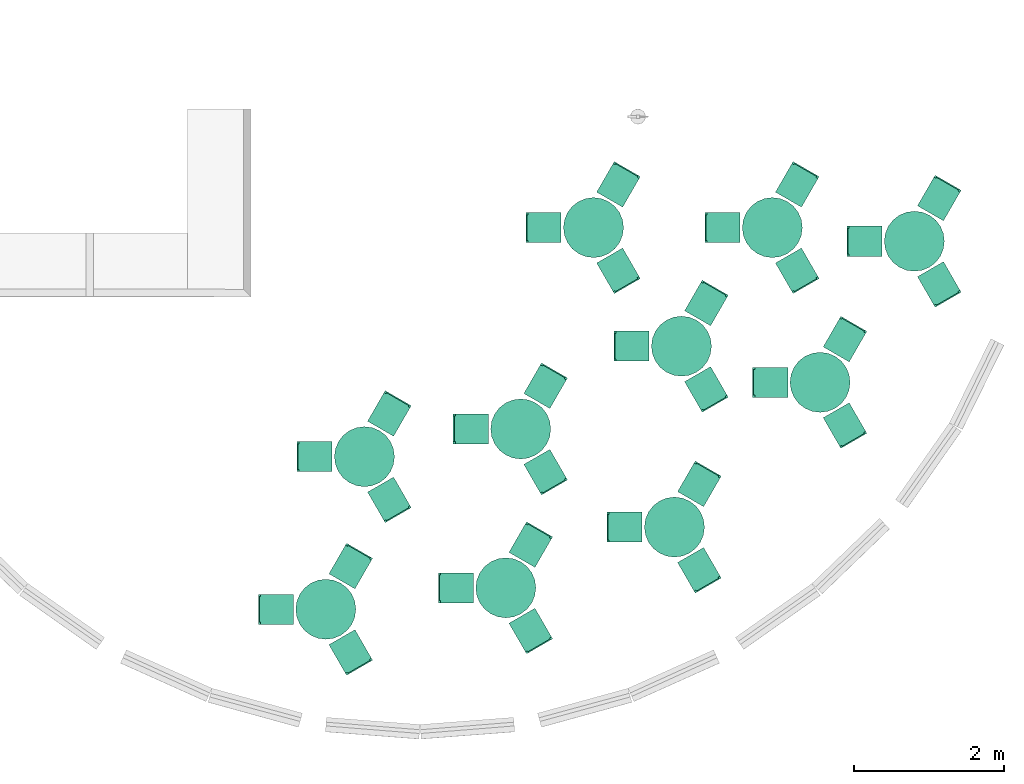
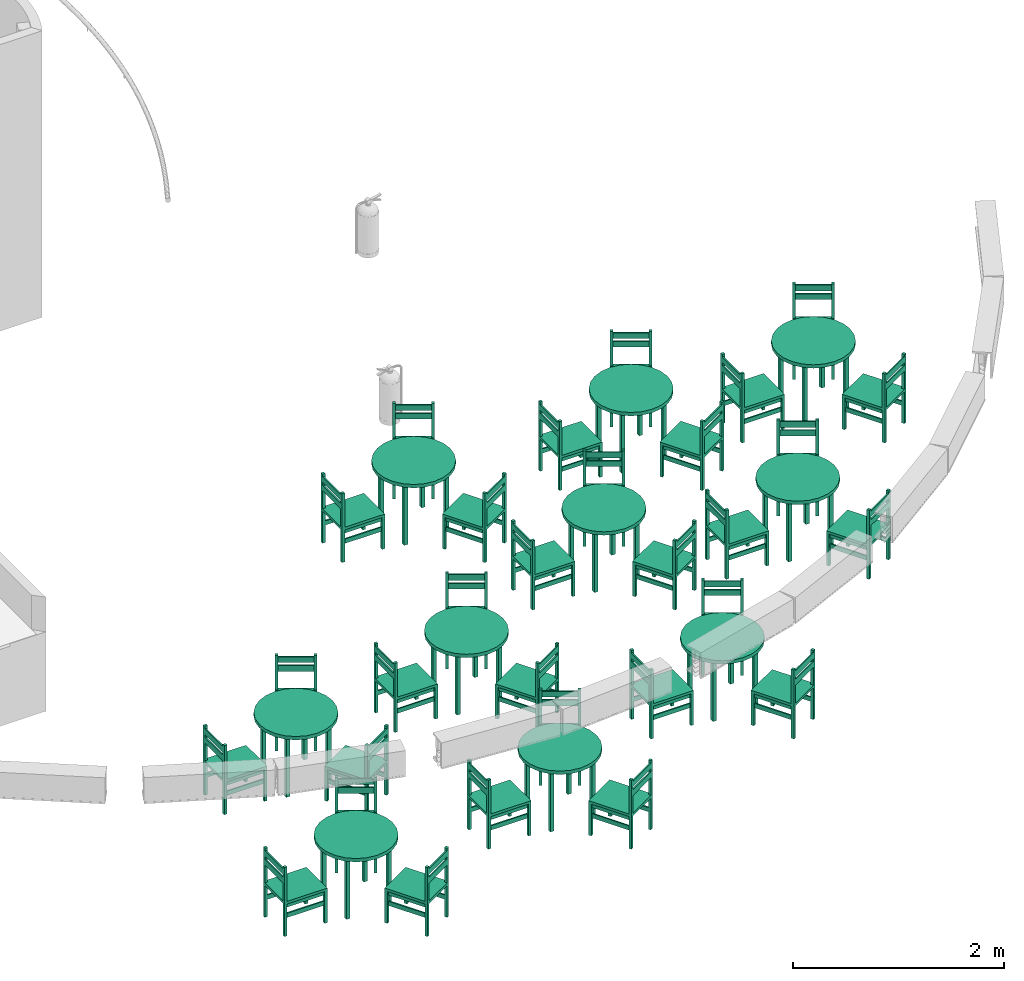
# One storey, part 5 of 6: 10 sanitary terminals.
"""IFC4 building model written with IfcOpenShell, lengths in millimetres."""

from ifc_helpers import new_model, entity, si_unit, converted_unit, derived_unit, direction, frame, origin_with_axes, place, context, subcontext, project, spatial, polygons, source, transform, mapped, type_object, element, save


model = new_model("IFC4")

# Units and contexts
model_context = context("Model", 3, precision=0.01, world=origin_with_axes(), true_north=direction((0.0, 1.0)))
body_context = subcontext(model_context, "Body", "Model", "MODEL_VIEW")
ifc_project = project(units=[si_unit("LENGTHUNIT", "METRE", prefix="MILLI"), si_unit("AREAUNIT", "SQUARE_METRE"), si_unit("VOLUMEUNIT", "CUBIC_METRE"), converted_unit("PLANEANGLEUNIT", "DEGREE", entity("IfcPlaneAngleMeasure", 0.0174532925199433), si_unit("PLANEANGLEUNIT", "RADIAN"), dimensions=[0, 0, 0, 0, 0, 0, 0]), converted_unit("TIMEUNIT", "Year", entity("IfcTimeMeasure", 31557600.0), si_unit("TIMEUNIT", "SECOND"), dimensions=[0, 0, 1, 0, 0, 0, 0]), si_unit("MASSUNIT", "GRAM", prefix="KILO"), si_unit("THERMODYNAMICTEMPERATUREUNIT", "DEGREE_CELSIUS"), si_unit("LUMINOUSINTENSITYUNIT", "LUMEN"), si_unit("ENERGYUNIT", "JOULE", prefix="MEGA"), derived_unit("THERMALCONDUCTANCEUNIT", [(si_unit("POWERUNIT", "WATT"), 1), (si_unit("LENGTHUNIT", "METRE"), -1), (si_unit("THERMODYNAMICTEMPERATUREUNIT", "KELVIN"), -1)]), derived_unit("SPECIFICHEATCAPACITYUNIT", [(si_unit("ENERGYUNIT", "JOULE"), 1), (si_unit("MASSUNIT", "GRAM", prefix="KILO"), -1), (si_unit("THERMODYNAMICTEMPERATUREUNIT", "KELVIN"), -1)]), derived_unit("MASSDENSITYUNIT", [(si_unit("MASSUNIT", "GRAM", prefix="KILO"), 1), (si_unit("VOLUMEUNIT", "CUBIC_METRE"), -1)])], contexts=[model_context])

# Site, building, storey
site_placement = place(None, origin_with_axes())
site = spatial("IfcSite", under=ifc_project, at=site_placement, Name="Exteriér", CompositionType="ELEMENT")
building_placement = place(site_placement, origin_with_axes())
building = spatial("IfcBuilding", under=site, at=building_placement, Name="Univerzitní lezecké centrum", CompositionType="ELEMENT")
storey_placement = place(building_placement, origin_with_axes())
storey = spatial("IfcBuildingStorey", under=building, at=storey_placement, Name="1.NP", CompositionType="ELEMENT", Elevation=0.0)

# Sanitary terminals
sanitary_terminal_type = type_object("IfcSanitaryTerminalType", Name="Dining Table Round 17", PredefinedType="NOTDEFINED")
shared_shape = source(origin_with_axes(), body_context, "Body", "Tessellation", [
    polygons([(386.3703305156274, -103.5276180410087, 710.0), (346.4101615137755, -200.0000000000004, 710.0), (282.842712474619, -282.8427124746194, 710.0), (199.9999999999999, -346.4101615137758, 710.0), (103.5276180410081, -386.3703305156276, 710.0), (0.0, -400.0000000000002, 710.0), (-103.5276180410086, -386.3703305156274, 710.0), (-200.0000000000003, -346.4101615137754, 710.0), (-282.8427124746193, -282.842712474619, 710.0), (-346.4101615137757, -199.9999999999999, 710.0), (-386.3703305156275, -103.5276180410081, 710.0), (-400.0000000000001, 0.0, 710.0), (-386.3703305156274, 103.5276180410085, 710.0), (-346.4101615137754, 200.0000000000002, 710.0), (-282.842712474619, 282.8427124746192, 710.0), (-199.9999999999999, 346.4101615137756, 710.0), (-103.5276180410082, 386.3703305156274, 710.0), (0.0, 400.0, 710.0), (103.5276180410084, 386.3703305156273, 710.0), (200.0000000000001, 346.4101615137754, 710.0), (282.8427124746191, 282.842712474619, 710.0), (346.4101615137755, 200.0, 710.0), (386.3703305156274, 103.5276180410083, 710.0), (400.0, 0.0, 710.0), (386.3703305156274, -103.5276180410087, 750.0), (346.4101615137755, -200.0000000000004, 750.0), (282.842712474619, -282.8427124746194, 750.0), (199.9999999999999, -346.4101615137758, 750.0), (103.5276180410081, -386.3703305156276, 750.0), (0.0, -400.0000000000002, 750.0), (-103.5276180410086, -386.3703305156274, 750.0), (-200.0000000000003, -346.4101615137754, 750.0), (-282.8427124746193, -282.842712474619, 750.0), (-346.4101615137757, -199.9999999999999, 750.0), (-386.3703305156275, -103.5276180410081, 750.0), (-400.0000000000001, 0.0, 750.0), (-386.3703305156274, 103.5276180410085, 750.0), (-346.4101615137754, 200.0000000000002, 750.0), (-282.842712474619, 282.8427124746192, 750.0), (-199.9999999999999, 346.4101615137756, 750.0), (-103.5276180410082, 386.3703305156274, 750.0), (0.0, 400.0, 750.0), (103.5276180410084, 386.3703305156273, 750.0), (200.0000000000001, 346.4101615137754, 750.0), (282.8427124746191, 282.842712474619, 750.0), (346.4101615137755, 200.0, 750.0), (386.3703305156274, 103.5276180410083, 750.0), (400.0, 0.0, 750.0)], [[[1, 2, 3, 4, 5, 6, 7, 8, 9, 10, 11, 12, 13, 14, 15, 16, 17, 18, 19, 20, 21, 22, 23, 24]], [[2, 1, 25, 26]], [[3, 2, 26, 27]], [[4, 3, 27, 28]], [[5, 4, 28, 29]], [[6, 5, 29, 30]], [[7, 6, 30, 31]], [[8, 7, 31, 32]], [[9, 8, 32, 33]], [[10, 9, 33, 34]], [[11, 10, 34, 35]], [[12, 11, 35, 36]], [[13, 12, 36, 37]], [[14, 13, 37, 38]], [[15, 14, 38, 39]], [[16, 15, 39, 40]], [[17, 16, 40, 41]], [[18, 17, 41, 42]], [[19, 18, 42, 43]], [[20, 19, 43, 44]], [[21, 20, 44, 45]], [[22, 21, 45, 46]], [[23, 22, 46, 47]], [[24, 23, 47, 48]], [[1, 24, 48, 25]], [[25, 48, 47, 46, 45, 44, 43, 42, 41, 40, 39, 38, 37, 36, 35, 34, 33, 32, 31, 30, 29, 28, 27, 26]]], closed=True),
    polygons([(-206.6666666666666, -246.6666666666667, 0.0), (-246.6666666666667, -246.6666666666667, 0.0), (-246.6666666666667, -206.6666666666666, 0.0), (-206.6666666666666, -206.6666666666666, 0.0), (-206.6666666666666, -246.6666666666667, 710.0), (-246.6666666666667, -246.6666666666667, 710.0), (-246.6666666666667, -206.6666666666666, 710.0), (-206.6666666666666, -206.6666666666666, 710.0)], [[[1, 2, 3, 4]], [[2, 1, 5, 6]], [[3, 2, 6, 7]], [[4, 3, 7, 8]], [[1, 4, 8, 5]], [[6, 5, 8, 7]]], closed=True),
    polygons([(246.6666666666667, -246.6666666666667, 0.0), (206.6666666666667, -246.6666666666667, 0.0), (206.6666666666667, -206.6666666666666, 0.0), (246.6666666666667, -206.6666666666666, 0.0), (246.6666666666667, -246.6666666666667, 710.0), (206.6666666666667, -246.6666666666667, 710.0), (206.6666666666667, -206.6666666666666, 710.0), (246.6666666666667, -206.6666666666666, 710.0)], [[[1, 2, 3, 4]], [[2, 1, 5, 6]], [[3, 2, 6, 7]], [[4, 3, 7, 8]], [[1, 4, 8, 5]], [[6, 5, 8, 7]]], closed=True),
    polygons([(246.6666666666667, 206.6666666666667, 0.0), (206.6666666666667, 206.6666666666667, 0.0), (206.6666666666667, 246.6666666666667, 0.0), (246.6666666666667, 246.6666666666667, 0.0), (246.6666666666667, 206.6666666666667, 710.0), (206.6666666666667, 206.6666666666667, 710.0), (206.6666666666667, 246.6666666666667, 710.0), (246.6666666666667, 246.6666666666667, 710.0)], [[[1, 2, 3, 4]], [[2, 1, 5, 6]], [[3, 2, 6, 7]], [[4, 3, 7, 8]], [[1, 4, 8, 5]], [[6, 5, 8, 7]]], closed=True),
    polygons([(-206.6666666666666, 206.6666666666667, 0.0), (-246.6666666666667, 206.6666666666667, 0.0), (-246.6666666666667, 246.6666666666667, 0.0), (-206.6666666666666, 246.6666666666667, 0.0), (-206.6666666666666, 206.6666666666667, 710.0), (-246.6666666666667, 206.6666666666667, 710.0), (-246.6666666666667, 246.6666666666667, 710.0), (-206.6666666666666, 246.6666666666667, 710.0)], [[[1, 2, 3, 4]], [[2, 1, 5, 6]], [[3, 2, 6, 7]], [[4, 3, 7, 8]], [[1, 4, 8, 5]], [[6, 5, 8, 7]]], closed=True),
    polygons([(-900.0, 170.0000000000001, 370.0), (-900.0, 170.0000000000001, 400.0), (-870.0, 170.0, 400.0), (-870.0, 170.0, 370.0), (-900.0, -169.9999999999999, 370.0), (-900.0, -169.9999999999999, 400.0), (-870.0, -170.0, 400.0), (-870.0, -200.0, 400.0), (-430.0000000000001, -200.0, 400.0), (-430.0000000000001, 200.0, 400.0), (-870.0, 200.0, 400.0), (-870.0, 200.0, 370.0), (-430.0000000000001, 200.0, 370.0), (-430.0000000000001, -200.0, 370.0), (-870.0, -200.0, 370.0), (-870.0, -170.0, 370.0)], [[[1, 2, 3, 4]], [[5, 6, 2, 1]], [[2, 6, 7, 8, 9, 10, 11, 3]], [[4, 3, 11, 12]], [[1, 4, 12, 13, 14, 15, 16, 5]], [[16, 7, 6, 5]], [[15, 8, 7, 16]], [[14, 9, 8, 15]], [[13, 10, 9, 14]], [[12, 11, 10, 13]]], closed=True),
    polygons([(-900.0, -169.9999999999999, 0.0), (-870.0, -169.9999999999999, 0.0), (-870.0, -199.9999999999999, 0.0), (-900.0, -199.9999999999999, 0.0), (-900.0, -169.9999999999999, 800.0), (-870.0, -169.9999999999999, 800.0), (-870.0, -199.9999999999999, 800.0), (-900.0, -199.9999999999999, 800.0)], [[[1, 2, 3, 4]], [[1, 5, 6, 2]], [[2, 6, 7, 3]], [[3, 7, 8, 4]], [[4, 8, 5, 1]], [[8, 7, 6, 5]]], closed=True),
    polygons([(-460.0000000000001, -170.0, 0.0), (-430.0000000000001, -170.0, 0.0), (-430.0000000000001, -200.0, 0.0), (-460.0000000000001, -200.0, 0.0), (-460.0000000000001, -170.0, 370.0), (-430.0000000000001, -170.0, 370.0), (-430.0000000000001, -200.0, 370.0), (-460.0000000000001, -200.0, 370.0)], [[[1, 2, 3, 4]], [[1, 5, 6, 2]], [[2, 6, 7, 3]], [[3, 7, 8, 4]], [[4, 8, 5, 1]], [[8, 7, 6, 5]]], closed=True),
    polygons([(-900.0, 170.0000000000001, 0.0), (-900.0, 200.0000000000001, 0.0), (-870.0, 200.0000000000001, 0.0), (-870.0, 170.0000000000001, 0.0), (-900.0, 170.0000000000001, 800.0), (-900.0, 200.0000000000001, 800.0), (-870.0, 200.0000000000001, 800.0), (-870.0, 170.0000000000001, 800.0)], [[[1, 2, 3, 4]], [[2, 1, 5, 6]], [[3, 2, 6, 7]], [[4, 3, 7, 8]], [[1, 4, 8, 5]], [[6, 5, 8, 7]]], closed=True),
    polygons([(-460.0000000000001, 170.0, 0.0), (-460.0000000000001, 200.0, 0.0), (-430.0000000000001, 200.0, 0.0), (-430.0000000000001, 170.0, 0.0), (-460.0000000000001, 170.0, 370.0), (-460.0000000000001, 200.0, 370.0), (-430.0000000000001, 200.0, 370.0), (-430.0000000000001, 170.0, 370.0)], [[[1, 2, 3, 4]], [[2, 1, 5, 6]], [[3, 2, 6, 7]], [[4, 3, 7, 8]], [[1, 4, 8, 5]], [[6, 5, 8, 7]]], closed=True),
    polygons([(-870.0, -170.0, 320.0000000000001), (-460.0, -170.0, 320.0000000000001), (-460.0, -185.0, 320.0000000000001), (-870.0, -185.0, 320.0000000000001), (-870.0, -170.0, 370.0000000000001), (-460.0, -170.0, 370.0000000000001), (-460.0, -185.0, 370.0000000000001), (-870.0, -185.0, 370.0000000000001)], [[[1, 2, 3, 4]], [[1, 5, 6, 2]], [[2, 6, 7, 3]], [[3, 7, 8, 4]], [[4, 8, 5, 1]], [[8, 7, 6, 5]]], closed=True),
    polygons([(-870.0, -170.0, 200.0), (-460.0, -170.0, 200.0), (-460.0, -185.0, 200.0), (-870.0, -185.0, 200.0), (-870.0, -170.0, 250.0), (-460.0, -170.0, 250.0), (-460.0, -185.0, 250.0), (-870.0, -185.0, 250.0)], [[[1, 2, 3, 4]], [[1, 5, 6, 2]], [[2, 6, 7, 3]], [[3, 7, 8, 4]], [[4, 8, 5, 1]], [[8, 7, 6, 5]]], closed=True),
    polygons([(-870.0, 170.0, 320.0000000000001), (-870.0, 185.0, 320.0000000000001), (-460.0, 185.0, 320.0000000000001), (-460.0, 170.0, 320.0000000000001), (-870.0, 170.0, 370.0000000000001), (-870.0, 185.0, 370.0000000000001), (-460.0, 185.0, 370.0000000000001), (-460.0, 170.0, 370.0000000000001)], [[[1, 2, 3, 4]], [[2, 1, 5, 6]], [[3, 2, 6, 7]], [[4, 3, 7, 8]], [[1, 4, 8, 5]], [[6, 5, 8, 7]]], closed=True),
    polygons([(-870.0, 170.0, 200.0), (-870.0, 185.0, 200.0), (-460.0, 185.0, 200.0), (-460.0, 170.0, 200.0), (-870.0, 170.0, 250.0), (-870.0, 185.0, 250.0), (-460.0, 185.0, 250.0), (-460.0, 170.0, 250.0)], [[[1, 2, 3, 4]], [[2, 1, 5, 6]], [[3, 2, 6, 7]], [[4, 3, 7, 8]], [[1, 4, 8, 5]], [[6, 5, 8, 7]]], closed=True),
    polygons([(-900.0, 170.0000000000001, 706.6666666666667), (-885.0, 170.0000000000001, 706.6666666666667), (-885.0, -169.9999999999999, 706.6666666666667), (-900.0, -169.9999999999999, 706.6666666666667), (-900.0, 170.0000000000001, 773.3333333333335), (-885.0, 170.0000000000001, 773.3333333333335), (-885.0, -169.9999999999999, 773.3333333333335), (-900.0, -169.9999999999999, 773.3333333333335)], [[[1, 2, 3, 4]], [[1, 5, 6, 2]], [[2, 6, 7, 3]], [[3, 7, 8, 4]], [[4, 8, 5, 1]], [[8, 7, 6, 5]]], closed=True),
    polygons([(-900.0, 170.0000000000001, 606.6666666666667), (-885.0, 170.0000000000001, 606.6666666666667), (-885.0, -169.9999999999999, 606.6666666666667), (-900.0, -169.9999999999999, 606.6666666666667), (-900.0, 170.0000000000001, 673.3333333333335), (-885.0, 170.0000000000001, 673.3333333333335), (-885.0, -169.9999999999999, 673.3333333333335), (-900.0, -169.9999999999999, 673.3333333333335)], [[[1, 2, 3, 4]], [[1, 5, 6, 2]], [[2, 6, 7, 3]], [[3, 7, 8, 4]], [[4, 8, 5, 1]], [[8, 7, 6, 5]]], closed=True),
    polygons([(302.7756813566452, -864.4228634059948, 370.0), (302.7756813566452, -864.4228634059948, 400.0), (287.7756813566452, -838.4421012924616, 400.0), (287.7756813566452, -838.4421012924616, 370.0), (597.2243186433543, -694.4228634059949, 370.0), (597.2243186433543, -694.4228634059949, 400.0), (582.2243186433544, -668.4421012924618, 400.0), (608.2050807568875, -653.4421012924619, 400.0), (388.2050807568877, -272.3909236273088, 400.0), (41.79491924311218, -472.3909236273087, 400.0), (261.794919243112, -853.4421012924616, 400.0), (261.794919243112, -853.4421012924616, 370.0), (41.79491924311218, -472.3909236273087, 370.0), (388.2050807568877, -272.3909236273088, 370.0), (608.2050807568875, -653.4421012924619, 370.0), (582.2243186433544, -668.4421012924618, 370.0)], [[[1, 2, 3, 4]], [[5, 6, 2, 1]], [[2, 6, 7, 8, 9, 10, 11, 3]], [[4, 3, 11, 12]], [[1, 4, 12, 13, 14, 15, 16, 5]], [[16, 7, 6, 5]], [[15, 8, 7, 16]], [[14, 9, 8, 15]], [[13, 10, 9, 14]], [[12, 11, 10, 13]]], closed=True),
    polygons([(597.2243186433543, -694.4228634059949, 0.0), (582.2243186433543, -668.4421012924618, 0.0), (608.2050807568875, -653.4421012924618, 0.0), (623.2050807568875, -679.4228634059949, 0.0), (597.2243186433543, -694.4228634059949, 800.0), (582.2243186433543, -668.4421012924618, 800.0), (608.2050807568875, -653.4421012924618, 800.0), (623.2050807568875, -679.4228634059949, 800.0)], [[[1, 2, 3, 4]], [[1, 5, 6, 2]], [[2, 6, 7, 3]], [[3, 7, 8, 4]], [[4, 8, 5, 1]], [[8, 7, 6, 5]]], closed=True),
    polygons([(377.2243186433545, -313.3716857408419, 0.0), (362.2243186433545, -287.3909236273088, 0.0), (388.2050807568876, -272.3909236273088, 0.0), (403.2050807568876, -298.3716857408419, 0.0), (377.2243186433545, -313.3716857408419, 370.0), (362.2243186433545, -287.3909236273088, 370.0), (388.2050807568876, -272.3909236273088, 370.0), (403.2050807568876, -298.3716857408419, 370.0)], [[[1, 2, 3, 4]], [[1, 5, 6, 2]], [[2, 6, 7, 3]], [[3, 7, 8, 4]], [[4, 8, 5, 1]], [[8, 7, 6, 5]]], closed=True),
    polygons([(302.7756813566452, -864.4228634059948, 0.0), (276.794919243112, -879.4228634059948, 0.0), (261.794919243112, -853.4421012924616, 0.0), (287.7756813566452, -838.4421012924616, 0.0), (302.7756813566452, -864.4228634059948, 800.0), (276.794919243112, -879.4228634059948, 800.0), (261.794919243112, -853.4421012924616, 800.0), (287.7756813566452, -838.4421012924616, 800.0)], [[[1, 2, 3, 4]], [[2, 1, 5, 6]], [[3, 2, 6, 7]], [[4, 3, 7, 8]], [[1, 4, 8, 5]], [[6, 5, 8, 7]]], closed=True),
    polygons([(82.7756813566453, -483.3716857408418, 0.0), (56.79491924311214, -498.3716857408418, 0.0), (41.79491924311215, -472.3909236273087, 0.0), (67.77568135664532, -457.3909236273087, 0.0), (82.7756813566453, -483.3716857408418, 370.0), (56.79491924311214, -498.3716857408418, 370.0), (41.79491924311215, -472.3909236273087, 370.0), (67.77568135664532, -457.3909236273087, 370.0)], [[[1, 2, 3, 4]], [[2, 1, 5, 6]], [[3, 2, 6, 7]], [[4, 3, 7, 8]], [[1, 4, 8, 5]], [[6, 5, 8, 7]]], closed=True),
    polygons([(582.2243186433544, -668.4421012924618, 320.0000000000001), (377.2243186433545, -313.3716857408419, 320.0000000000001), (390.2146997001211, -305.8716857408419, 320.0000000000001), (595.214699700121, -660.9421012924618, 320.0000000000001), (582.2243186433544, -668.4421012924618, 370.0000000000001), (377.2243186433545, -313.3716857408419, 370.0000000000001), (390.2146997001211, -305.8716857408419, 370.0000000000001), (595.214699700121, -660.9421012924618, 370.0000000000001)], [[[1, 2, 3, 4]], [[1, 5, 6, 2]], [[2, 6, 7, 3]], [[3, 7, 8, 4]], [[4, 8, 5, 1]], [[8, 7, 6, 5]]], closed=True),
    polygons([(582.2243186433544, -668.4421012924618, 200.0), (377.2243186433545, -313.3716857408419, 200.0), (390.2146997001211, -305.8716857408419, 200.0), (595.214699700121, -660.9421012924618, 200.0), (582.2243186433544, -668.4421012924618, 250.0), (377.2243186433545, -313.3716857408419, 250.0), (390.2146997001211, -305.8716857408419, 250.0), (595.214699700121, -660.9421012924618, 250.0)], [[[1, 2, 3, 4]], [[1, 5, 6, 2]], [[2, 6, 7, 3]], [[3, 7, 8, 4]], [[4, 8, 5, 1]], [[8, 7, 6, 5]]], closed=True),
    polygons([(287.7756813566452, -838.4421012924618, 320.0000000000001), (274.7853002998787, -845.9421012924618, 320.0000000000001), (69.78530029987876, -490.8716857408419, 320.0000000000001), (82.77568135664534, -483.3716857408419, 320.0000000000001), (287.7756813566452, -838.4421012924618, 370.0000000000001), (274.7853002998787, -845.9421012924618, 370.0000000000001), (69.78530029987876, -490.8716857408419, 370.0000000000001), (82.77568135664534, -483.3716857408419, 370.0000000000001)], [[[1, 2, 3, 4]], [[2, 1, 5, 6]], [[3, 2, 6, 7]], [[4, 3, 7, 8]], [[1, 4, 8, 5]], [[6, 5, 8, 7]]], closed=True),
    polygons([(287.7756813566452, -838.4421012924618, 200.0), (274.7853002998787, -845.9421012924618, 200.0), (69.78530029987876, -490.8716857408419, 200.0), (82.77568135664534, -483.3716857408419, 200.0), (287.7756813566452, -838.4421012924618, 250.0), (274.7853002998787, -845.9421012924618, 250.0), (69.78530029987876, -490.8716857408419, 250.0), (82.77568135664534, -483.3716857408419, 250.0)], [[[1, 2, 3, 4]], [[2, 1, 5, 6]], [[3, 2, 6, 7]], [[4, 3, 7, 8]], [[1, 4, 8, 5]], [[6, 5, 8, 7]]], closed=True),
    polygons([(302.7756813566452, -864.4228634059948, 706.6666666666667), (295.2756813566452, -851.4324823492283, 706.6666666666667), (589.7243186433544, -681.4324823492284, 706.6666666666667), (597.2243186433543, -694.4228634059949, 706.6666666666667), (302.7756813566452, -864.4228634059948, 773.3333333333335), (295.2756813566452, -851.4324823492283, 773.3333333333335), (589.7243186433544, -681.4324823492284, 773.3333333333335), (597.2243186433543, -694.4228634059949, 773.3333333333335)], [[[1, 2, 3, 4]], [[1, 5, 6, 2]], [[2, 6, 7, 3]], [[3, 7, 8, 4]], [[4, 8, 5, 1]], [[8, 7, 6, 5]]], closed=True),
    polygons([(302.7756813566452, -864.4228634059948, 606.6666666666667), (295.2756813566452, -851.4324823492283, 606.6666666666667), (589.7243186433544, -681.4324823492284, 606.6666666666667), (597.2243186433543, -694.4228634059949, 606.6666666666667), (302.7756813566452, -864.4228634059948, 673.3333333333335), (295.2756813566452, -851.4324823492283, 673.3333333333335), (589.7243186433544, -681.4324823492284, 673.3333333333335), (597.2243186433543, -694.4228634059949, 673.3333333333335)], [[[1, 2, 3, 4]], [[1, 5, 6, 2]], [[2, 6, 7, 3]], [[3, 7, 8, 4]], [[4, 8, 5, 1]], [[8, 7, 6, 5]]], closed=True),
    polygons([(597.2243186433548, 694.4228634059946, 370.0), (597.2243186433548, 694.4228634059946, 400.0), (582.2243186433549, 668.4421012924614, 400.0), (582.2243186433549, 668.4421012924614, 370.0), (302.7756813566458, 864.4228634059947, 370.0), (302.7756813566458, 864.4228634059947, 400.0), (287.7756813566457, 838.4421012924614, 400.0), (261.7949192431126, 853.4421012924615, 400.0), (41.79491924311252, 472.3909236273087, 400.0), (388.2050807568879, 272.3909236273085, 400.0), (608.2050807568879, 653.4421012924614, 400.0), (608.2050807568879, 653.4421012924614, 370.0), (388.2050807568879, 272.3909236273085, 370.0), (41.79491924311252, 472.3909236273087, 370.0), (261.7949192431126, 853.4421012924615, 370.0), (287.7756813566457, 838.4421012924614, 370.0)], [[[1, 2, 3, 4]], [[5, 6, 2, 1]], [[2, 6, 7, 8, 9, 10, 11, 3]], [[4, 3, 11, 12]], [[1, 4, 12, 13, 14, 15, 16, 5]], [[16, 7, 6, 5]], [[15, 8, 7, 16]], [[14, 9, 8, 15]], [[13, 10, 9, 14]], [[12, 11, 10, 13]]], closed=True),
    polygons([(302.7756813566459, 864.4228634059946, 0.0), (287.7756813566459, 838.4421012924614, 0.0), (261.7949192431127, 853.4421012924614, 0.0), (276.7949192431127, 879.4228634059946, 0.0), (302.7756813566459, 864.4228634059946, 800.0), (287.7756813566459, 838.4421012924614, 800.0), (261.7949192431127, 853.4421012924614, 800.0), (276.7949192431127, 879.4228634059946, 800.0)], [[[1, 2, 3, 4]], [[1, 5, 6, 2]], [[2, 6, 7, 3]], [[3, 7, 8, 4]], [[4, 8, 5, 1]], [[8, 7, 6, 5]]], closed=True),
    polygons([(82.77568135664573, 483.3716857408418, 0.0), (67.77568135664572, 457.3909236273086, 0.0), (41.79491924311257, 472.3909236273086, 0.0), (56.79491924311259, 498.3716857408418, 0.0), (82.77568135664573, 483.3716857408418, 370.0), (67.77568135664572, 457.3909236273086, 370.0), (41.79491924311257, 472.3909236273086, 370.0), (56.79491924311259, 498.3716857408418, 370.0)], [[[1, 2, 3, 4]], [[1, 5, 6, 2]], [[2, 6, 7, 3]], [[3, 7, 8, 4]], [[4, 8, 5, 1]], [[8, 7, 6, 5]]], closed=True),
    polygons([(597.2243186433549, 694.4228634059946, 0.0), (623.205080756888, 679.4228634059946, 0.0), (608.205080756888, 653.4421012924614, 0.0), (582.2243186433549, 668.4421012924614, 0.0), (597.2243186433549, 694.4228634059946, 800.0), (623.205080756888, 679.4228634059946, 800.0), (608.205080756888, 653.4421012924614, 800.0), (582.2243186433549, 668.4421012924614, 800.0)], [[[1, 2, 3, 4]], [[2, 1, 5, 6]], [[3, 2, 6, 7]], [[4, 3, 7, 8]], [[1, 4, 8, 5]], [[6, 5, 8, 7]]], closed=True),
    polygons([(377.2243186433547, 313.3716857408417, 0.0), (403.2050807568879, 298.3716857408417, 0.0), (388.2050807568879, 272.3909236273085, 0.0), (362.2243186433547, 287.3909236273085, 0.0), (377.2243186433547, 313.3716857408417, 370.0), (403.2050807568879, 298.3716857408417, 370.0), (388.2050807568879, 272.3909236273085, 370.0), (362.2243186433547, 287.3909236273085, 370.0)], [[[1, 2, 3, 4]], [[2, 1, 5, 6]], [[3, 2, 6, 7]], [[4, 3, 7, 8]], [[1, 4, 8, 5]], [[6, 5, 8, 7]]], closed=True),
    polygons([(287.7756813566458, 838.4421012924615, 320.0000000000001), (82.7756813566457, 483.3716857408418, 320.0000000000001), (69.78530029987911, 490.8716857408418, 320.0000000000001), (274.7853002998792, 845.9421012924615, 320.0000000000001), (287.7756813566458, 838.4421012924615, 370.0000000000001), (82.7756813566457, 483.3716857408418, 370.0000000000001), (69.78530029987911, 490.8716857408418, 370.0000000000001), (274.7853002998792, 845.9421012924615, 370.0000000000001)], [[[1, 2, 3, 4]], [[1, 5, 6, 2]], [[2, 6, 7, 3]], [[3, 7, 8, 4]], [[4, 8, 5, 1]], [[8, 7, 6, 5]]], closed=True),
    polygons([(287.7756813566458, 838.4421012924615, 200.0), (82.7756813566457, 483.3716857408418, 200.0), (69.78530029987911, 490.8716857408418, 200.0), (274.7853002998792, 845.9421012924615, 200.0), (287.7756813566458, 838.4421012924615, 250.0), (82.7756813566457, 483.3716857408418, 250.0), (69.78530029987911, 490.8716857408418, 250.0), (274.7853002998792, 845.9421012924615, 250.0)], [[[1, 2, 3, 4]], [[1, 5, 6, 2]], [[2, 6, 7, 3]], [[3, 7, 8, 4]], [[4, 8, 5, 1]], [[8, 7, 6, 5]]], closed=True),
    polygons([(582.224318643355, 668.4421012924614, 320.0000000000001), (595.2146997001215, 660.9421012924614, 320.0000000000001), (390.2146997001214, 305.8716857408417, 320.0000000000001), (377.2243186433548, 313.3716857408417, 320.0000000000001), (582.224318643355, 668.4421012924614, 370.0000000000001), (595.2146997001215, 660.9421012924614, 370.0000000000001), (390.2146997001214, 305.8716857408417, 370.0000000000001), (377.2243186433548, 313.3716857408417, 370.0000000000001)], [[[1, 2, 3, 4]], [[2, 1, 5, 6]], [[3, 2, 6, 7]], [[4, 3, 7, 8]], [[1, 4, 8, 5]], [[6, 5, 8, 7]]], closed=True),
    polygons([(582.224318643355, 668.4421012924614, 200.0), (595.2146997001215, 660.9421012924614, 200.0), (390.2146997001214, 305.8716857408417, 200.0), (377.2243186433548, 313.3716857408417, 200.0), (582.224318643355, 668.4421012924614, 250.0), (595.2146997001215, 660.9421012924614, 250.0), (390.2146997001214, 305.8716857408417, 250.0), (377.2243186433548, 313.3716857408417, 250.0)], [[[1, 2, 3, 4]], [[2, 1, 5, 6]], [[3, 2, 6, 7]], [[4, 3, 7, 8]], [[1, 4, 8, 5]], [[6, 5, 8, 7]]], closed=True),
    polygons([(597.2243186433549, 694.4228634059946, 706.6666666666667), (589.724318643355, 681.432482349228, 706.6666666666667), (295.2756813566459, 851.4324823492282, 706.6666666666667), (302.7756813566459, 864.4228634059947, 706.6666666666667), (597.2243186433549, 694.4228634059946, 773.3333333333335), (589.724318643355, 681.432482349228, 773.3333333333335), (295.2756813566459, 851.4324823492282, 773.3333333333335), (302.7756813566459, 864.4228634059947, 773.3333333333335)], [[[1, 2, 3, 4]], [[1, 5, 6, 2]], [[2, 6, 7, 3]], [[3, 7, 8, 4]], [[4, 8, 5, 1]], [[8, 7, 6, 5]]], closed=True),
    polygons([(597.2243186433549, 694.4228634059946, 606.6666666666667), (589.724318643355, 681.432482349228, 606.6666666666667), (295.2756813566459, 851.4324823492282, 606.6666666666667), (302.7756813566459, 864.4228634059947, 606.6666666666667), (597.2243186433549, 694.4228634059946, 673.3333333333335), (589.724318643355, 681.432482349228, 673.3333333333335), (295.2756813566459, 851.4324823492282, 673.3333333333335), (302.7756813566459, 864.4228634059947, 673.3333333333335)], [[[1, 2, 3, 4]], [[1, 5, 6, 2]], [[2, 6, 7, 3]], [[3, 7, 8, 4]], [[4, 8, 5, 1]], [[8, 7, 6, 5]]], closed=True),
])
for number, where, z_axis, x_axis, name in (
    (1, (9037.564515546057, -2060.13812509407, 0.0), (0.0, 0.0, 1.0), (1.0, 0.0, 0.0), "OV25"),
    (2, (3593.718110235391, -6678.410768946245, 0.0), (0.0, 0.0, 1.0), (1.0, 0.0, 0.0), "OV25"),
    (3, (5841.064005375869, -5869.154324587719, 0.0), (0.0, 0.0, 1.0), (1.0, 0.0, 0.0), "OV25"),
    (4, (7781.123705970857, -3940.117469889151, 0.0), (0.0, 0.0, 1.0), (1.0, 0.0, 0.0), "OV25"),
    (5, (5934.217033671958, -3458.868479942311, 0.0), (0.0, 0.0, 1.0), (1.0, 0.0, 0.0), "OV25"),
    (6, (7145.136214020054, -1878.304395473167, 0.0), (0.0, 0.0, 1.0), (1.0, 0.0, 0.0), "OV25"),
    (7, (1195.076323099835, -6964.085673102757, 0.0), (0.0, 0.0, 1.0), (1.0, 0.0, 0.0), "OV25"),
    (8, (1709.924253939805, -4930.781379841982, 0.0), (0.0, 0.0, 1.0), (1.0, 0.0, 0.0), "OV25"),
    (9, (3792.314500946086, -4561.580522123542, 0.0), (0.0, 0.0, 1.0), (1.0, 0.0, 0.0), "OV25"),
    (10, (4762.401238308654, -1878.304395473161, 0.0), (0.0, 0.0, 1.0), (1.0, 0.0, 0.0), "OV25"),
):
    element("IfcSanitaryTerminal", number, at=place(storey_placement, frame(where, z_axis=z_axis, x_axis=x_axis)), inside=storey, type_object=sanitary_terminal_type, Name=name, PredefinedType="NOTDEFINED", context=body_context, shape_type="MappedRepresentation", body=[
        mapped(shared_shape, transform((0.0, 0.0, 0.0))),
    ])

save(model, "model.ifc")
